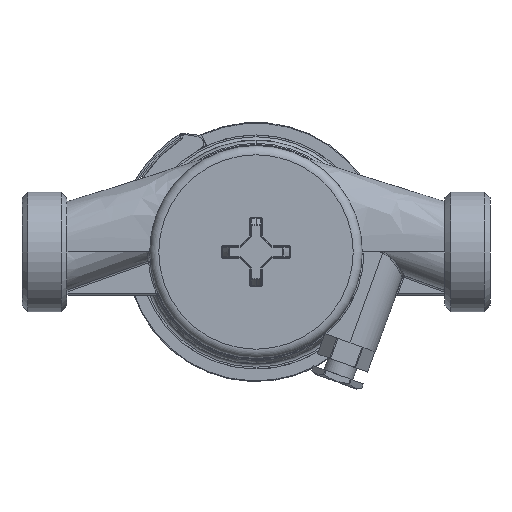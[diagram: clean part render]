
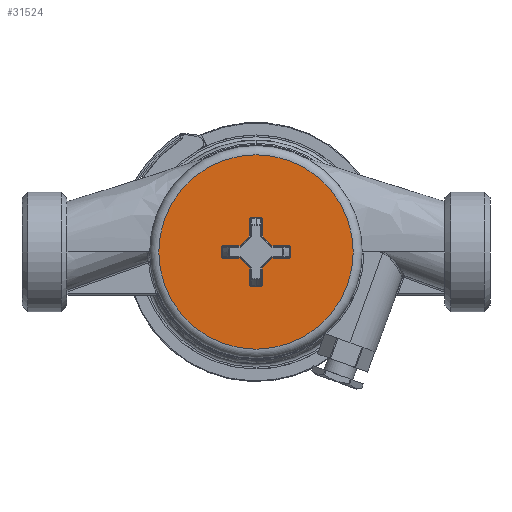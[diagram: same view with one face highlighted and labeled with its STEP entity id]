
A CAD part, front view. The second image highlights one B-rep face of the part: STEP entity #31524.
In plain terms, the highlighted planar face has unit normal (0, -1, 0).
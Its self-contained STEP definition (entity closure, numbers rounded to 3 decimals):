
#30008=CARTESIAN_POINT('',(-9.7,-14.8,1.3));
#30009=VERTEX_POINT('',#30008);
#30035=CARTESIAN_POINT('',(-9.3,-14.8,1.7));
#30036=VERTEX_POINT('',#30035);
#30044=CARTESIAN_POINT('',(-9.3,-14.8,1.3));
#30045=DIRECTION('',(-0.,-1.,-0.));
#30046=DIRECTION('',(0.,-0.,1.));
#30047=AXIS2_PLACEMENT_3D('',#30044,#30045,#30046);
#30048=CIRCLE('',#30047,0.4);
#30049=EDGE_CURVE('',#30036,#30009,#30048,.T.);
#30084=CARTESIAN_POINT('',(-9.3,-14.8,-1.7));
#30085=VERTEX_POINT('',#30084);
#30111=CARTESIAN_POINT('',(-9.7,-14.8,-1.3));
#30112=VERTEX_POINT('',#30111);
#30120=CARTESIAN_POINT('',(-9.3,-14.8,-1.3));
#30121=DIRECTION('',(-0.,-1.,-0.));
#30122=DIRECTION('',(0.,-0.,1.));
#30123=AXIS2_PLACEMENT_3D('',#30120,#30121,#30122);
#30124=CIRCLE('',#30123,0.4);
#30125=EDGE_CURVE('',#30112,#30085,#30124,.T.);
#30251=CARTESIAN_POINT('',(1.3,-14.8,9.7));
#30252=VERTEX_POINT('',#30251);
#30278=CARTESIAN_POINT('',(1.7,-14.8,9.3));
#30279=VERTEX_POINT('',#30278);
#30287=CARTESIAN_POINT('',(1.3,-14.8,9.3));
#30288=DIRECTION('',(-0.,-1.,-0.));
#30289=DIRECTION('',(0.,-0.,1.));
#30290=AXIS2_PLACEMENT_3D('',#30287,#30288,#30289);
#30291=CIRCLE('',#30290,0.4);
#30292=EDGE_CURVE('',#30279,#30252,#30291,.T.);
#30327=CARTESIAN_POINT('',(-1.7,-14.8,9.3));
#30328=VERTEX_POINT('',#30327);
#30354=CARTESIAN_POINT('',(-1.3,-14.8,9.7));
#30355=VERTEX_POINT('',#30354);
#30363=CARTESIAN_POINT('',(-1.3,-14.8,9.3));
#30364=DIRECTION('',(-0.,-1.,-0.));
#30365=DIRECTION('',(0.,-0.,1.));
#30366=AXIS2_PLACEMENT_3D('',#30363,#30364,#30365);
#30367=CIRCLE('',#30366,0.4);
#30368=EDGE_CURVE('',#30355,#30328,#30367,.T.);
#30487=CARTESIAN_POINT('',(9.7,-14.8,-1.3));
#30488=VERTEX_POINT('',#30487);
#30514=CARTESIAN_POINT('',(9.3,-14.8,-1.7));
#30515=VERTEX_POINT('',#30514);
#30523=CARTESIAN_POINT('',(9.3,-14.8,-1.3));
#30524=DIRECTION('',(-0.,-1.,-0.));
#30525=DIRECTION('',(0.,-0.,1.));
#30526=AXIS2_PLACEMENT_3D('',#30523,#30524,#30525);
#30527=CIRCLE('',#30526,0.4);
#30528=EDGE_CURVE('',#30515,#30488,#30527,.T.);
#30563=CARTESIAN_POINT('',(9.3,-14.8,1.7));
#30564=VERTEX_POINT('',#30563);
#30590=CARTESIAN_POINT('',(9.7,-14.8,1.3));
#30591=VERTEX_POINT('',#30590);
#30599=CARTESIAN_POINT('',(9.3,-14.8,1.3));
#30600=DIRECTION('',(-0.,-1.,-0.));
#30601=DIRECTION('',(0.,-0.,1.));
#30602=AXIS2_PLACEMENT_3D('',#30599,#30600,#30601);
#30603=CIRCLE('',#30602,0.4);
#30604=EDGE_CURVE('',#30591,#30564,#30603,.T.);
#30714=CARTESIAN_POINT('',(-1.3,-14.8,-9.7));
#30715=VERTEX_POINT('',#30714);
#30741=CARTESIAN_POINT('',(-1.7,-14.8,-9.3));
#30742=VERTEX_POINT('',#30741);
#30750=CARTESIAN_POINT('',(-1.3,-14.8,-9.3));
#30751=DIRECTION('',(-0.,-1.,-0.));
#30752=DIRECTION('',(0.,-0.,1.));
#30753=AXIS2_PLACEMENT_3D('',#30750,#30751,#30752);
#30754=CIRCLE('',#30753,0.4);
#30755=EDGE_CURVE('',#30742,#30715,#30754,.T.);
#30830=CARTESIAN_POINT('',(1.7,-14.8,-9.3));
#30831=VERTEX_POINT('',#30830);
#30849=CARTESIAN_POINT('',(1.3,-14.8,-9.7));
#30850=VERTEX_POINT('',#30849);
#30858=CARTESIAN_POINT('',(1.3,-14.8,-9.3));
#30859=DIRECTION('',(-0.,-1.,-0.));
#30860=DIRECTION('',(0.,-0.,1.));
#30861=AXIS2_PLACEMENT_3D('',#30858,#30859,#30860);
#30862=CIRCLE('',#30861,0.4);
#30863=EDGE_CURVE('',#30850,#30831,#30862,.T.);
#30874=CARTESIAN_POINT('',(1.7,-14.8,-4.443));
#30875=VERTEX_POINT('',#30874);
#30917=CARTESIAN_POINT('',(4.443,-14.8,-1.7));
#30918=VERTEX_POINT('',#30917);
#30951=CARTESIAN_POINT('',(4.443,-14.8,1.7));
#30952=VERTEX_POINT('',#30951);
#30984=CARTESIAN_POINT('',(1.7,-14.8,4.443));
#30985=VERTEX_POINT('',#30984);
#31026=CARTESIAN_POINT('',(-1.7,-14.8,4.443));
#31027=VERTEX_POINT('',#31026);
#31069=CARTESIAN_POINT('',(-4.443,-14.8,1.7));
#31070=VERTEX_POINT('',#31069);
#31103=CARTESIAN_POINT('',(-4.443,-14.8,-1.7));
#31104=VERTEX_POINT('',#31103);
#31136=CARTESIAN_POINT('',(-1.7,-14.8,-4.443));
#31137=VERTEX_POINT('',#31136);
#31402=CARTESIAN_POINT('',(0.,-14.8,10.));
#31403=DIRECTION('',(-0.,-1.,-0.));
#31404=DIRECTION('',(0.,-0.,1.));
#31405=AXIS2_PLACEMENT_3D('',#31402,#31403,#31404);
#31406=PLANE('',#31405);
#31407=CARTESIAN_POINT('',(0.,-14.8,27.));
#31408=VERTEX_POINT('',#31407);
#31409=CARTESIAN_POINT('',(-0.,-14.8,-0.));
#31410=DIRECTION('',(-0.,-1.,-0.));
#31411=DIRECTION('',(0.,-0.,1.));
#31412=AXIS2_PLACEMENT_3D('',#31409,#31410,#31411);
#31413=CIRCLE('',#31412,27.);
#31414=EDGE_CURVE('',#31408,#31408,#31413,.T.);
#31415=ORIENTED_EDGE('',*,*,#31414,.T.);
#31416=EDGE_LOOP('',(#31415));
#31417=FACE_BOUND('',#31416,.T.);
#31418=CARTESIAN_POINT('',(4.443,-14.8,-1.7));
#31419=DIRECTION('',(1.,-0.,-0.));
#31420=VECTOR('',#31419,4.857);
#31421=LINE('',#31418,#31420);
#31422=EDGE_CURVE('',#30918,#30515,#31421,.T.);
#31423=ORIENTED_EDGE('',*,*,#31422,.F.);
#31424=CARTESIAN_POINT('',(1.7,-14.8,-4.443));
#31425=DIRECTION('',(0.707,-0.,0.707));
#31426=VECTOR('',#31425,3.879);
#31427=LINE('',#31424,#31426);
#31428=EDGE_CURVE('',#30875,#30918,#31427,.T.);
#31429=ORIENTED_EDGE('',*,*,#31428,.F.);
#31430=CARTESIAN_POINT('',(1.7,-14.8,-9.3));
#31431=DIRECTION('',(0.,-0.,1.));
#31432=VECTOR('',#31431,4.857);
#31433=LINE('',#31430,#31432);
#31434=EDGE_CURVE('',#30831,#30875,#31433,.T.);
#31435=ORIENTED_EDGE('',*,*,#31434,.F.);
#31436=ORIENTED_EDGE('',*,*,#30863,.F.);
#31437=CARTESIAN_POINT('',(-1.3,-14.8,-9.7));
#31438=DIRECTION('',(1.,-0.,-0.));
#31439=VECTOR('',#31438,2.6);
#31440=LINE('',#31437,#31439);
#31441=EDGE_CURVE('',#30715,#30850,#31440,.T.);
#31442=ORIENTED_EDGE('',*,*,#31441,.F.);
#31443=ORIENTED_EDGE('',*,*,#30755,.F.);
#31444=CARTESIAN_POINT('',(-1.7,-14.8,-4.443));
#31445=DIRECTION('',(-0.,0.,-1.));
#31446=VECTOR('',#31445,4.857);
#31447=LINE('',#31444,#31446);
#31448=EDGE_CURVE('',#31137,#30742,#31447,.T.);
#31449=ORIENTED_EDGE('',*,*,#31448,.F.);
#31450=CARTESIAN_POINT('',(-4.443,-14.8,-1.7));
#31451=DIRECTION('',(0.707,0.,-0.707));
#31452=VECTOR('',#31451,3.879);
#31453=LINE('',#31450,#31452);
#31454=EDGE_CURVE('',#31104,#31137,#31453,.T.);
#31455=ORIENTED_EDGE('',*,*,#31454,.F.);
#31456=CARTESIAN_POINT('',(-9.3,-14.8,-1.7));
#31457=DIRECTION('',(1.,-0.,-0.));
#31458=VECTOR('',#31457,4.857);
#31459=LINE('',#31456,#31458);
#31460=EDGE_CURVE('',#30085,#31104,#31459,.T.);
#31461=ORIENTED_EDGE('',*,*,#31460,.F.);
#31462=ORIENTED_EDGE('',*,*,#30125,.F.);
#31463=CARTESIAN_POINT('',(-9.7,-14.8,1.3));
#31464=DIRECTION('',(-0.,0.,-1.));
#31465=VECTOR('',#31464,2.6);
#31466=LINE('',#31463,#31465);
#31467=EDGE_CURVE('',#30009,#30112,#31466,.T.);
#31468=ORIENTED_EDGE('',*,*,#31467,.F.);
#31469=ORIENTED_EDGE('',*,*,#30049,.F.);
#31470=CARTESIAN_POINT('',(-4.443,-14.8,1.7));
#31471=DIRECTION('',(-1.,0.,0.));
#31472=VECTOR('',#31471,4.857);
#31473=LINE('',#31470,#31472);
#31474=EDGE_CURVE('',#31070,#30036,#31473,.T.);
#31475=ORIENTED_EDGE('',*,*,#31474,.F.);
#31476=CARTESIAN_POINT('',(-1.7,-14.8,4.443));
#31477=DIRECTION('',(-0.707,0.,-0.707));
#31478=VECTOR('',#31477,3.879);
#31479=LINE('',#31476,#31478);
#31480=EDGE_CURVE('',#31027,#31070,#31479,.T.);
#31481=ORIENTED_EDGE('',*,*,#31480,.F.);
#31482=CARTESIAN_POINT('',(-1.7,-14.8,9.3));
#31483=DIRECTION('',(-0.,0.,-1.));
#31484=VECTOR('',#31483,4.857);
#31485=LINE('',#31482,#31484);
#31486=EDGE_CURVE('',#30328,#31027,#31485,.T.);
#31487=ORIENTED_EDGE('',*,*,#31486,.F.);
#31488=ORIENTED_EDGE('',*,*,#30368,.F.);
#31489=CARTESIAN_POINT('',(1.3,-14.8,9.7));
#31490=DIRECTION('',(-1.,0.,0.));
#31491=VECTOR('',#31490,2.6);
#31492=LINE('',#31489,#31491);
#31493=EDGE_CURVE('',#30252,#30355,#31492,.T.);
#31494=ORIENTED_EDGE('',*,*,#31493,.F.);
#31495=ORIENTED_EDGE('',*,*,#30292,.F.);
#31496=CARTESIAN_POINT('',(1.7,-14.8,4.443));
#31497=DIRECTION('',(0.,-0.,1.));
#31498=VECTOR('',#31497,4.857);
#31499=LINE('',#31496,#31498);
#31500=EDGE_CURVE('',#30985,#30279,#31499,.T.);
#31501=ORIENTED_EDGE('',*,*,#31500,.F.);
#31502=CARTESIAN_POINT('',(4.443,-14.8,1.7));
#31503=DIRECTION('',(-0.707,-0.,0.707));
#31504=VECTOR('',#31503,3.879);
#31505=LINE('',#31502,#31504);
#31506=EDGE_CURVE('',#30952,#30985,#31505,.T.);
#31507=ORIENTED_EDGE('',*,*,#31506,.F.);
#31508=CARTESIAN_POINT('',(9.3,-14.8,1.7));
#31509=DIRECTION('',(-1.,0.,0.));
#31510=VECTOR('',#31509,4.857);
#31511=LINE('',#31508,#31510);
#31512=EDGE_CURVE('',#30564,#30952,#31511,.T.);
#31513=ORIENTED_EDGE('',*,*,#31512,.F.);
#31514=ORIENTED_EDGE('',*,*,#30604,.F.);
#31515=CARTESIAN_POINT('',(9.7,-14.8,-1.3));
#31516=DIRECTION('',(0.,-0.,1.));
#31517=VECTOR('',#31516,2.6);
#31518=LINE('',#31515,#31517);
#31519=EDGE_CURVE('',#30488,#30591,#31518,.T.);
#31520=ORIENTED_EDGE('',*,*,#31519,.F.);
#31521=ORIENTED_EDGE('',*,*,#30528,.F.);
#31522=EDGE_LOOP('',(#31423,#31429,#31435,#31436,#31442,#31443,#31449,#31455,#31461,#31462,#31468,#31469,#31475,#31481,#31487,#31488,#31494,#31495,#31501,#31507,#31513,#31514,#31520,#31521));
#31523=FACE_BOUND('',#31522,.T.);
#31524=ADVANCED_FACE('',(#31417,#31523),#31406,.T.);
